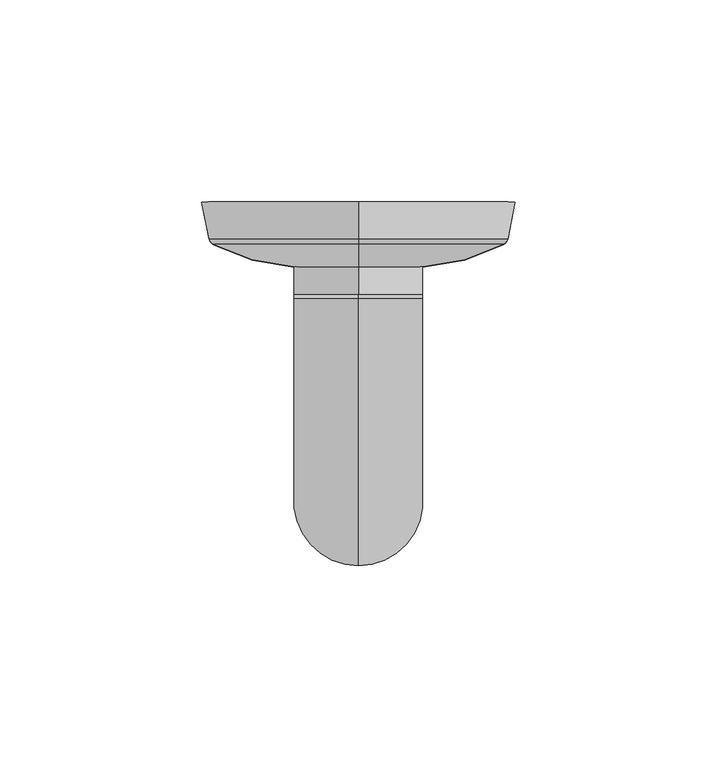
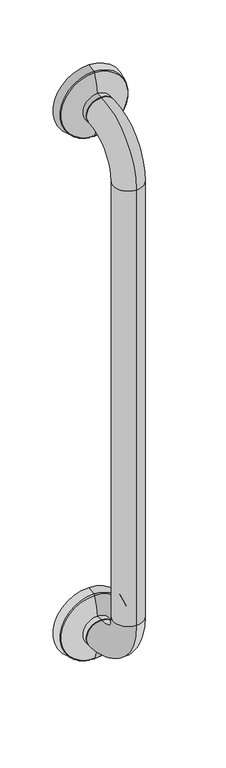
"""IFC4 building model written with IfcOpenShell, lengths in millimetres: proxy geometry, Grab Rail_Metlam_Straight_Vertical : 632long x 90d x 32w (ML331_1SS)."""

import ifcopenshell
import ifcopenshell.guid

model = None  # the IFC model being written
_history = None  # IfcOwnerHistory: only IFC2X3 demands one
_inside = {}  # id of a spatial element -> (the spatial element, [elements in it])
_under = {}  # id of a project, library or spatial element -> (it, [spatial elements below it])
_declared = {}  # id of a project -> (the project, [libraries it declares])
_typed = {}  # id of a type object -> (the type object, [elements of that type])
_made_of = {}  # id of a material, layer set ... -> (it, [elements and type objects made of it])


def new_model(schema):
    """Start an empty IFC model of exactly this schema.

    Asked for "IFC4X3", IfcOpenShell would pick the latest addendum, in which some entities
    have other attributes; the version numbers below select the first issue.
    IFC2X3 requires an IfcOwnerHistory on every rooted entity: one is made here for all.
    """
    global model, _history
    if schema == "IFC4X3":
        model = ifcopenshell.file(schema_version=(4, 3, 0, 0))
    else:
        model = ifcopenshell.file(schema=schema)
    _inside.clear()
    _under.clear()
    _declared.clear()
    _typed.clear()
    _made_of.clear()
    _history = None
    if model.schema == "IFC2X3":
        org = make("IfcOrganization", Name="unknown")
        user = make(
            "IfcPersonAndOrganization",
            ThePerson=make("IfcPerson", FamilyName="unknown"),
            TheOrganization=org,
        )
        app = make(
            "IfcApplication",
            ApplicationDeveloper=org,
            Version="unknown",
            ApplicationFullName="unknown",
            ApplicationIdentifier="unknown",
        )
        _history = make(
            "IfcOwnerHistory",
            OwningUser=user,
            OwningApplication=app,
            ChangeAction="ADDED",
            CreationDate=0,
        )
    return model


def make(cls, **values):
    """One entity of the class cls with the attributes given. An attribute that is None is left unset."""
    return model.create_entity(
        cls, **{name: value for name, value in values.items() if value is not None}
    )


def rooted(cls, **values):
    """An entity with a GlobalId (a new one), such as an element, a storey or a relation."""
    return make(cls, GlobalId=ifcopenshell.guid.new(), OwnerHistory=_history, **values)


def si_unit(unit_type, name, prefix=None):
    """IfcSIUnit, for example si_unit("LENGTHUNIT", "METRE", prefix="MILLI")."""
    return make("IfcSIUnit", UnitType=unit_type, Prefix=prefix, Name=name)


def assignment(units):
    """IfcUnitAssignment: the units of a project."""
    return None if units is None else make("IfcUnitAssignment", Units=units)


def point(xyz):
    """IfcCartesianPoint."""
    return None if xyz is None else make("IfcCartesianPoint", Coordinates=xyz)


def direction(xyz):
    """IfcDirection."""
    return None if xyz is None else make("IfcDirection", DirectionRatios=xyz)


def frame(location, z_axis=None, x_axis=None):
    """IfcAxis2Placement3D, a coordinate frame: its origin and axes. An axis left out is left unset."""
    return make(
        "IfcAxis2Placement3D",
        Location=point(location),
        Axis=direction(z_axis),
        RefDirection=direction(x_axis),
    )


def origin():
    """The frame at (0, 0, 0) with its axes left unset."""
    return frame((0.0, 0.0, 0.0))


def place(relative_to, where):
    """IfcLocalPlacement: puts the frame where relative to a parent placement (None: the world)."""
    return make(
        "IfcLocalPlacement", PlacementRelTo=relative_to, RelativePlacement=where
    )


def context(
    kind, dimensions, precision=None, world=None, true_north=None, identifier=None
):
    """IfcGeometricRepresentationContext, for example the 3D "Model" context."""
    return make(
        "IfcGeometricRepresentationContext",
        ContextIdentifier=identifier,
        ContextType=kind,
        CoordinateSpaceDimension=dimensions,
        Precision=precision,
        WorldCoordinateSystem=world,
        TrueNorth=true_north,
    )


def project(units=None, contexts=None):
    """IfcProject with its units and contexts."""
    return rooted(
        "IfcProject",
        Name="project",
        RepresentationContexts=contexts,
        UnitsInContext=assignment(units),
    )


def spatial(cls, under=None, at=None, **own):
    """A site, building, storey or space (cls), placed at a placement, below another one or the project."""
    s = rooted(cls, ObjectPlacement=at, **own)
    if under is not None:
        _under.setdefault(under.id(), (under, []))[1].append(s)
    return s


def polyline(points):
    """IfcPolyline through the points."""
    return make("IfcPolyline", Points=[point(p) for p in points])


def circle_curve(where, radius):
    """IfcCircle in the frame where."""
    return make("IfcCircle", Position=where, Radius=radius)


def ellipse_curve(where, semi_axis1, semi_axis2):
    """IfcEllipse in the frame where."""
    return make(
        "IfcEllipse", Position=where, SemiAxis1=semi_axis1, SemiAxis2=semi_axis2
    )


def trimmed(basis, trim1, trim2, sense, master):
    """IfcTrimmedCurve: the piece of a basis curve between two trims."""
    return make(
        "IfcTrimmedCurve",
        BasisCurve=basis,
        Trim1=trim1,
        Trim2=trim2,
        SenseAgreement=sense,
        MasterRepresentation=master,
    )


def shape(context_of_items, identifier, shape_type, items):
    """IfcShapeRepresentation: the items that make up one representation, for example the "Body"."""
    return make(
        "IfcShapeRepresentation",
        ContextOfItems=context_of_items,
        RepresentationIdentifier=identifier,
        RepresentationType=shape_type,
        Items=items,
    )


def source(mapping_origin, context_of_items, identifier, shape_type, items):
    """IfcRepresentationMap: a shape defined once, which mapped items show again and again."""
    return make(
        "IfcRepresentationMap",
        MappingOrigin=mapping_origin,
        MappedRepresentation=shape(context_of_items, identifier, shape_type, items),
    )


def transform(
    local_origin,
    x_axis=None,
    y_axis=None,
    z_axis=None,
    scale=None,
    scale2=None,
    scale3=None,
    uniform=True,
):
    """IfcCartesianTransformationOperator3D, or its non-uniform kind. x_axis, y_axis, z_axis: its Axis1, 2, 3."""
    if uniform:
        return make(
            "IfcCartesianTransformationOperator3D",
            Axis1=direction(x_axis),
            Axis2=direction(y_axis),
            LocalOrigin=point(local_origin),
            Scale=scale,
            Axis3=direction(z_axis),
        )
    return make(
        "IfcCartesianTransformationOperator3DnonUniform",
        Axis1=direction(x_axis),
        Axis2=direction(y_axis),
        LocalOrigin=point(local_origin),
        Scale=scale,
        Axis3=direction(z_axis),
        Scale2=scale2,
        Scale3=scale3,
    )


def mapped(mapping_source, mapping_target):
    """IfcMappedItem: shows the shape of a source again, moved by a transform."""
    return make(
        "IfcMappedItem", MappingSource=mapping_source, MappingTarget=mapping_target
    )


def made_of(thing, what):
    """Note that an element or type object is made of a material, layer set ...; save() writes the relation."""
    if what is not None:
        _made_of.setdefault(what.id(), (what, []))[1].append(thing)
    return thing


def element(
    cls,
    number,
    at=None,
    inside=None,
    cuts=None,
    type_object=None,
    material=None,
    context=None,
    identifier="Body",
    shape_type=None,
    held_by="IfcProductDefinitionShape",
    body=None,
    shapes=None,
    **own,
):
    """One element of the class cls, such as IfcWall. Its Tag is "e" and its number.

    at: its placement. inside: the storey or other place that contains it. cuts: it is an
    opening in that element (IfcRelVoidsElement). A single representation is given by context,
    identifier, shape_type and body (its items); several are given by shapes. held_by: the class
    of the entity that holds the representations. save() writes the other relations.
    """
    e = rooted(cls, Tag="e%d" % number, ObjectPlacement=at, **own)
    if body is not None:
        shapes = [shape(context, identifier, shape_type, body)]
    if shapes is not None:
        e.Representation = make(held_by, Representations=shapes)
    if inside is not None:
        _inside.setdefault(inside.id(), (inside, []))[1].append(e)
    if cuts is not None:
        rooted(
            "IfcRelVoidsElement", RelatingBuildingElement=cuts, RelatedOpeningElement=e
        )
    if type_object is not None:
        _typed.setdefault(type_object.id(), (type_object, []))[1].append(e)
    return made_of(e, material)


def aggregate(whole, parts):
    """IfcRelAggregates: a whole, such as a stair, and the parts it consists of."""
    return rooted("IfcRelAggregates", RelatingObject=whole, RelatedObjects=parts)


def save(model, path):
    """Write the relations noted so far, then the file.

    IfcRelAggregates (storeys below a building ...), IfcRelContainedInSpatialStructure (elements
    in a storey), IfcRelDefinesByType, IfcRelAssociatesMaterial and IfcRelDeclares: one each for
    every whole, place, type object, material and project.
    """
    for whole, parts in _under.values():
        aggregate(whole, parts)
    for where, things in _inside.values():
        rooted(
            "IfcRelContainedInSpatialStructure",
            RelatedElements=things,
            RelatingStructure=where,
        )
    for kind, things in _typed.values():
        rooted("IfcRelDefinesByType", RelatedObjects=things, RelatingType=kind)
    for what, things in _made_of.values():
        rooted("IfcRelAssociatesMaterial", RelatedObjects=things, RelatingMaterial=what)
    for by, libraries in _declared.values():
        rooted("IfcRelDeclares", RelatingContext=by, RelatedDefinitions=libraries)
    model.write(path)


def plane_surface(at):
    """IfcPlane: the flat surface through the origin of the frame at, square to its z axis."""
    return make("IfcPlane", Position=at)


def cylinder_surface(at, radius):
    """IfcCylindricalSurface: all points at the distance radius from the z axis of the frame at."""
    return make("IfcCylindricalSurface", Position=at, Radius=radius)


def revolved_surface(curve, axis_point, axis_direction):
    """IfcSurfaceOfRevolution: the curve turned about the line through axis_point along axis_direction."""
    return make(
        "IfcSurfaceOfRevolution",
        SweptCurve=make("IfcArbitraryOpenProfileDef", ProfileType="CURVE", Curve=curve),
        AxisPosition=make("IfcAxis1Placement", Location=point(axis_point), Axis=direction(axis_direction)),
    )


def advanced_brep(points, edges, surfaces, faces):
    """IfcAdvancedBrep: a solid bounded by faces that lie on surfaces and meet in shared edges.

    An edge is (start, end): straight between two places in points (the first is 0);
    or (start, end, curve); or (start, end, curve, False) where it runs against its curve.
    A face is (place in surfaces, loops), or (place, loops, False) where it looks against
    its surface's normal. A loop lists edges by number (the first is 1), with a minus sign
    where the edge is run from its end to its start. The first loop is the outer one.
    """
    corners = [point(p) for p in points]
    vertices = [make("IfcVertexPoint", VertexGeometry=c) for c in corners]
    made = []
    for start, end, *more in edges:
        made.append(
            make(
                "IfcEdgeCurve",
                EdgeStart=vertices[start],
                EdgeEnd=vertices[end],
                EdgeGeometry=more[0] if more else make("IfcPolyline", Points=[corners[start], corners[end]]),
                SameSense=more[1] if len(more) > 1 else True,
            )
        )
    hull = []
    for where, loops, *sense in faces:
        bounds = []
        for j, loop in enumerate(loops):
            ring = [make("IfcOrientedEdge", EdgeElement=made[abs(k) - 1], Orientation=k > 0) for k in loop]
            bounds.append(
                make(
                    "IfcFaceOuterBound" if j == 0 else "IfcFaceBound",
                    Bound=make("IfcEdgeLoop", EdgeList=ring),
                    Orientation=True,
                )
            )
        hull.append(make("IfcAdvancedFace", Bounds=bounds, FaceSurface=surfaces[where], SameSense=sense[0] if sense else True))
    return make("IfcAdvancedBrep", Outer=make("IfcClosedShell", CfsFaces=hull))


def specialty_equipment_a7c67ece(model_context):
    return source(origin(), model_context, "Body", "AdvancedBrep", [
        advanced_brep(
        [(0.0, -90.0, 834.0), (0.0, -24.0, 768.0), (0.0, -24.0, 800.0), (0.0, -58.0, 834.0), (0.0, -58.0, 1334.0), (0.0, -90.0, 1334.0), (0.0, -24.0, 1368.0), (0.0, -24.0, 1400.0), (0.0, -23.0, 768.0), (0.0, -23.0, 800.0), (0.0, -23.0, 1368.0), (0.0, -23.0, 1400.0), (0.0, 0.0, 1384.0), (0.0, 0.0, 1345.0), (0.0, 0.0, 1423.0), (0.0, -9.0646354, 1346.8129271), (0.0, -9.0646354, 1421.1870729), (0.0, -10.4521085, 1420.1384075), (0.0, -10.4521085, 1347.8615925), (0.0, -16.0065539, 1368.0), (0.0, -16.0065539, 1400.0), (0.0, -9.0646354, 746.8129271), (0.0, -9.0646354, 821.1870729), (0.0, 0.0, 823.0), (0.0, 0.0, 745.0), (0.0, -16.0065539, 768.0), (0.0, -16.0065539, 800.0), (0.0, -10.4521085, 820.1384075), (0.0, -10.4521085, 747.8615925), (0.0, 0.0, 784.0)],
        [
            (0, 1, circle_curve(frame((0.0, -24.0, 834.0), z_axis=(1.0, 0.0, 0.0), x_axis=(0.0, 0.0, -1.0)), 66.0)),
            (1, 2, circle_curve(frame((0.0, -24.0, 784.0), z_axis=(0.0, -1.0, 0.0), x_axis=(0.0, 0.0, -1.0)), 16.0)),
            (2, 3, circle_curve(frame((0.0, -24.0, 834.0), z_axis=(-1.0, 0.0, 0.0), x_axis=(0.0, 0.0, -1.0)), 34.0)),
            (3, 0, circle_curve(frame((0.0, -74.0, 834.0), z_axis=(0.0, 0.0, -1.0), x_axis=(0.0, -1.0, 0.0)), 16.0)),
            (0, 3, circle_curve(frame((0.0, -74.0, 834.0), z_axis=(0.0, 0.0, -1.0), x_axis=(0.0, -1.0, 0.0)), 16.0)),
            (2, 1, circle_curve(frame((0.0, -24.0, 784.0), z_axis=(0.0, -1.0, 0.0), x_axis=(0.0, 0.0, -1.0)), 16.0)),
            (3, 4),
            (4, 5, circle_curve(frame((0.0, -74.0, 1334.0), z_axis=(0.0, 0.0, -1.0), x_axis=(0.0, -1.0, 0.0)), 16.0)),
            (5, 0),
            (5, 4, circle_curve(frame((0.0, -74.0, 1334.0), z_axis=(0.0, 0.0, -1.0), x_axis=(0.0, -1.0, 0.0)), 16.0)),
            (4, 6, circle_curve(frame((0.0, -24.0, 1334.0), z_axis=(-1.0, 0.0, 0.0), x_axis=(0.0, -1.0, 0.0)), 34.0)),
            (6, 7, circle_curve(frame((0.0, -24.0, 1384.0), z_axis=(0.0, -1.0, 0.0), x_axis=(0.0, 0.0, 1.0)), 16.0)),
            (7, 5, circle_curve(frame((0.0, -24.0, 1334.0), z_axis=(1.0, 0.0, 0.0), x_axis=(0.0, -1.0, 0.0)), 66.0)),
            (7, 6, circle_curve(frame((0.0, -24.0, 1384.0), z_axis=(0.0, -1.0, 0.0), x_axis=(0.0, 0.0, 1.0)), 16.0)),
            (1, 8),
            (8, 9, circle_curve(frame((0.0, -23.0, 784.0), z_axis=(0.0, -1.0, 0.0), x_axis=(0.0, 0.0, -1.0)), 16.0)),
            (9, 2),
            (9, 8, circle_curve(frame((0.0, -23.0, 784.0), z_axis=(0.0, -1.0, 0.0), x_axis=(0.0, 0.0, -1.0)), 16.0)),
            (6, 10),
            (10, 11, circle_curve(frame((0.0, -23.0, 1384.0), z_axis=(0.0, -1.0, 0.0), x_axis=(0.0, 0.0, 1.0)), 16.0)),
            (11, 7),
            (11, 10, circle_curve(frame((0.0, -23.0, 1384.0), z_axis=(0.0, -1.0, 0.0), x_axis=(0.0, 0.0, 1.0)), 16.0)),
            (12, 13),
            (13, 14, circle_curve(frame((0.0, 0.0, 1384.0), z_axis=(0.0, 1.0, 0.0), x_axis=(0.0, 0.0, -1.0)), 39.0)),
            (14, 12),
            (14, 13, circle_curve(frame((0.0, 0.0, 1384.0), z_axis=(0.0, 1.0, 0.0), x_axis=(0.0, 0.0, -1.0)), 39.0)),
            (13, 15),
            (15, 16, circle_curve(frame((0.0, -9.0646354, 1384.0), z_axis=(0.0, 1.0, 0.0), x_axis=(0.0, 0.0, -1.0)), 37.1870729)),
            (16, 14),
            (16, 15, circle_curve(frame((0.0, -9.0646354, 1384.0), z_axis=(0.0, 1.0, 0.0), x_axis=(0.0, 0.0, -1.0)), 37.1870729)),
            (17, 18, circle_curve(frame((0.0, -10.4521085, 1384.0), z_axis=(0.0, -1.0, 0.0), x_axis=(0.0, 0.0, -1.0)), 36.1384075)),
            (18, 19, circle_curve(frame((0.0, 35.2834961, 1371.3112908), z_axis=(-1.0, 0.0, 0.0), x_axis=(0.0, 1.0, 0.0)), 51.3968275)),
            (19, 20, circle_curve(frame((0.0, -16.0065539, 1384.0), z_axis=(0.0, 1.0, 0.0), x_axis=(0.0, 0.0, -1.0)), 16.0)),
            (20, 17, circle_curve(frame((0.0, 35.2834961, 1396.6887092), z_axis=(-1.0, 0.0, 0.0), x_axis=(0.0, 1.0, 0.0)), 51.3968275)),
            (18, 17, circle_curve(frame((0.0, -10.4521085, 1384.0), z_axis=(0.0, -1.0, 0.0), x_axis=(0.0, 0.0, -1.0)), 36.1384075)),
            (20, 19, circle_curve(frame((0.0, -16.0065539, 1384.0), z_axis=(0.0, 1.0, 0.0), x_axis=(0.0, 0.0, -1.0)), 16.0)),
            (19, 10),
            (11, 20),
            (15, 18, circle_curve(frame((0.0, -8.6724031, 1348.7740884), z_axis=(-1.0, 0.0, 0.0), x_axis=(0.0, 1.0, 0.0)), 2.0)),
            (17, 16, circle_curve(frame((0.0, -8.6724031, 1419.2259116), z_axis=(-1.0, 0.0, 0.0), x_axis=(0.0, 1.0, 0.0)), 2.0)),
            (21, 22, circle_curve(frame((0.0, -9.0646354, 784.0), z_axis=(0.0, 1.0, 0.0), x_axis=(0.0, 0.0, 1.0)), 37.1870729)),
            (22, 23),
            (23, 24, circle_curve(frame((0.0, 0.0, 784.0), z_axis=(0.0, -1.0, 0.0), x_axis=(0.0, 0.0, 1.0)), 39.0)),
            (24, 21),
            (22, 21, circle_curve(frame((0.0, -9.0646354, 784.0), z_axis=(0.0, 1.0, 0.0), x_axis=(0.0, 0.0, 1.0)), 37.1870729)),
            (24, 23, circle_curve(frame((0.0, 0.0, 784.0), z_axis=(0.0, -1.0, 0.0), x_axis=(0.0, 0.0, 1.0)), 39.0)),
            (25, 26, circle_curve(frame((0.0, -16.0065539, 784.0), z_axis=(0.0, 1.0, 0.0), x_axis=(0.0, 0.0, 1.0)), 16.0)),
            (26, 27, circle_curve(frame((0.0, 35.2834961, 796.6887092), z_axis=(-1.0, 0.0, 0.0), x_axis=(0.0, 1.0, 0.0)), 51.3968275)),
            (27, 28, circle_curve(frame((0.0, -10.4521085, 784.0), z_axis=(0.0, -1.0, 0.0), x_axis=(0.0, 0.0, 1.0)), 36.1384075)),
            (28, 25, circle_curve(frame((0.0, 35.2834961, 771.3112908), z_axis=(-1.0, 0.0, 0.0), x_axis=(0.0, 1.0, 0.0)), 51.3968275)),
            (26, 25, circle_curve(frame((0.0, -16.0065539, 784.0), z_axis=(0.0, 1.0, 0.0), x_axis=(0.0, 0.0, 1.0)), 16.0)),
            (28, 27, circle_curve(frame((0.0, -10.4521085, 784.0), z_axis=(0.0, -1.0, 0.0), x_axis=(0.0, 0.0, 1.0)), 36.1384075)),
            (25, 8),
            (9, 26),
            (23, 29),
            (29, 24),
            (21, 28, circle_curve(frame((0.0, -8.6724031, 748.7740884), z_axis=(-1.0, 0.0, 0.0), x_axis=(0.0, 1.0, 0.0)), 2.0)),
            (27, 22, circle_curve(frame((0.0, -8.6724031, 819.2259116), z_axis=(-1.0, 0.0, 0.0), x_axis=(0.0, 1.0, 0.0)), 2.0)),
        ],
        [
            revolved_surface(trimmed(ellipse_curve(frame((0.0, -24.0, 784.0), z_axis=(0.0, 1.0, 0.0), x_axis=(0.0, 0.0, -1.0)), 16.0, 16.0), [point((0.0, -24.0, 800.0))], [point((0.0, -24.0, 768.0))], True, "CARTESIAN"), (0.0, -24.0, 834.0), (-1.0, 0.0, 0.0)),
            revolved_surface(trimmed(ellipse_curve(frame((0.0, -24.0, 784.0), z_axis=(0.0, 1.0, 0.0), x_axis=(0.0, 0.0, -1.0)), 16.0, 16.0), [point((0.0, -24.0, 768.0))], [point((0.0, -24.0, 800.0))], True, "CARTESIAN"), (0.0, -24.0, 834.0), (-1.0, 0.0, 0.0)),
            cylinder_surface(frame((0.0, -74.0, 834.0), z_axis=(0.0, 0.0, -1.0), x_axis=(0.0, -1.0, 0.0)), 16.0),
            revolved_surface(trimmed(ellipse_curve(frame((0.0, -74.0, 1334.0), z_axis=(0.0, 0.0, -1.0), x_axis=(0.0, -1.0, 0.0)), 16.0, 16.0), [point((0.0, -58.0, 1334.0))], [point((0.0, -90.0, 1334.0))], True, "CARTESIAN"), (0.0, -24.0, 1334.0), (-1.0, 0.0, 0.0)),
            revolved_surface(trimmed(ellipse_curve(frame((0.0, -74.0, 1334.0), z_axis=(0.0, 0.0, -1.0), x_axis=(0.0, -1.0, 0.0)), 16.0, 16.0), [point((0.0, -90.0, 1334.0))], [point((0.0, -58.0, 1334.0))], True, "CARTESIAN"), (0.0, -24.0, 1334.0), (-1.0, 0.0, 0.0)),
            cylinder_surface(frame((0.0, -23.0, 784.0), z_axis=(0.0, 1.0, 0.0), x_axis=(0.0, 0.0, -1.0)), 16.0),
            cylinder_surface(frame((0.0, -24.0, 1384.0), z_axis=(0.0, -1.0, 0.0), x_axis=(0.0, 0.0, 1.0)), 16.0),
            plane_surface(frame((0.0, 0.0, 1384.0), z_axis=(0.0, 1.0, 0.0), x_axis=(0.0, 0.0, -1.0))),
            revolved_surface(polyline([(0.0, -9.0646354, 1346.8129271), (0.0, 0.0, 1345.0)]), (0.0, -10.0, 1384.0), (0.0, 1.0, 0.0)),
            revolved_surface(trimmed(ellipse_curve(frame((0.0, 35.2834961, 1371.3112908), z_axis=(1.0, 0.0, 0.0), x_axis=(0.0, 1.0, 0.0)), 51.3968275, 51.3968275), [point((0.0, -16.0065539, 1368.0))], [point((0.0, -10.4521085, 1347.8615925))], True, "CARTESIAN"), (0.0, -10.0, 1384.0), (0.0, 1.0, 0.0)),
            cylinder_surface(frame((0.0, -10.0, 1384.0), z_axis=(0.0, 1.0, 0.0), x_axis=(0.0, 0.0, -1.0)), 16.0),
            revolved_surface(trimmed(ellipse_curve(frame((0.0, -8.6724031, 1348.7740884), z_axis=(1.0, 0.0, 0.0), x_axis=(0.0, 1.0, 0.0)), 2.0, 2.0), [point((0.0, -10.4521085, 1347.8615925))], [point((0.0, -9.0646354, 1346.8129271))], True, "CARTESIAN"), (0.0, -10.0, 1384.0), (0.0, 1.0, 0.0)),
            revolved_surface(polyline([(0.0, 0.0, 823.0), (0.0, -9.0646354, 821.1870729)]), (0.0, -10.0, 784.0), (0.0, -1.0, 0.0)),
            revolved_surface(trimmed(ellipse_curve(frame((0.0, 35.2834961, 796.6887092), z_axis=(1.0, 0.0, 0.0), x_axis=(0.0, 1.0, 0.0)), 51.3968275, 51.3968275), [point((0.0, -10.4521085, 820.1384075))], [point((0.0, -16.0065539, 800.0))], True, "CARTESIAN"), (0.0, -10.0, 784.0), (0.0, -1.0, 0.0)),
            cylinder_surface(frame((0.0, -10.0, 784.0), z_axis=(0.0, -1.0, 0.0), x_axis=(0.0, 0.0, 1.0)), 16.0),
            plane_surface(frame((0.0, 0.0, 784.0), z_axis=(0.0, 1.0, 0.0), x_axis=(0.0, 0.0, 1.0))),
            revolved_surface(trimmed(ellipse_curve(frame((0.0, -8.6724031, 819.2259116), z_axis=(1.0, 0.0, 0.0), x_axis=(0.0, 1.0, 0.0)), 2.0, 2.0), [point((0.0, -9.0646354, 821.1870729))], [point((0.0, -10.4521085, 820.1384075))], True, "CARTESIAN"), (0.0, -10.0, 784.0), (0.0, -1.0, 0.0)),
        ],
        [
            (0, [[1, 2, 3, 4]]),
            (1, [[-1, 5, -3, 6]]),
            (2, [[-4, 7, 8, 9]]),
            (2, [[-5, -9, 10, -7]]),
            (3, [[-8, 11, 12, 13]]),
            (4, [[-10, -13, 14, -11]]),
            (5, [[-2, 15, 16, 17]]),
            (5, [[-6, -17, 18, -15]]),
            (6, [[-12, 19, 20, 21]]),
            (6, [[-14, -21, 22, -19]]),
            (7, [[23, 24, 25]]),
            (7, [[-23, -25, 26]]),
            (8, [[-24, 27, 28, 29]]),
            (8, [[-26, -29, 30, -27]]),
            (9, [[31, 32, 33, 34]]),
            (9, [[-32, 35, -34, 36]]),
            (10, [[-33, 37, -22, 38]]),
            (10, [[-36, -38, -20, -37]]),
            (11, [[-28, 39, -31, 40]]),
            (11, [[-30, -40, -35, -39]]),
            (12, [[41, 42, 43, 44]]),
            (12, [[-42, 45, -44, 46]]),
            (13, [[47, 48, 49, 50]]),
            (13, [[-48, 51, -50, 52]]),
            (14, [[-47, 53, -18, 54]]),
            (14, [[-51, -54, -16, -53]]),
            (15, [[-43, 55, 56]]),
            (15, [[-46, -56, -55]]),
            (16, [[-41, 57, -49, 58]]),
            (16, [[-45, -58, -52, -57]]),
        ],
    ),
    ])


if __name__ == "__main__":
    model = new_model("IFC4")
    model_context = context("Model", 3, world=origin())
    ifc_project = project(units=[si_unit("LENGTHUNIT", "METRE", prefix="MILLI")], contexts=[model_context])
    site = spatial("IfcSite", under=ifc_project)
    building = spatial("IfcBuilding", under=site)
    placement = place(None, origin())
    specialty_equipment_shape = specialty_equipment_a7c67ece(model_context)
    element("IfcBuildingElementProxy", 1, Name="Grab Rail_Metlam_Straight_Vertical : 632long x 90d x 32w (ML331_1SS)", ObjectType="Grab Rail_Metlam_Straight_Vertical : 632long x 90d x 32w (ML331_1SS)", at=placement, inside=building, context=model_context, shape_type="MappedRepresentation", body=[
        mapped(specialty_equipment_shape, transform((0.0, 0.0, 0.0), x_axis=(1.0, 0.0, 0.0), y_axis=(0.0, 1.0, 0.0), z_axis=(0.0, 0.0, 1.0))),
    ])
    save(model, "model.ifc")
